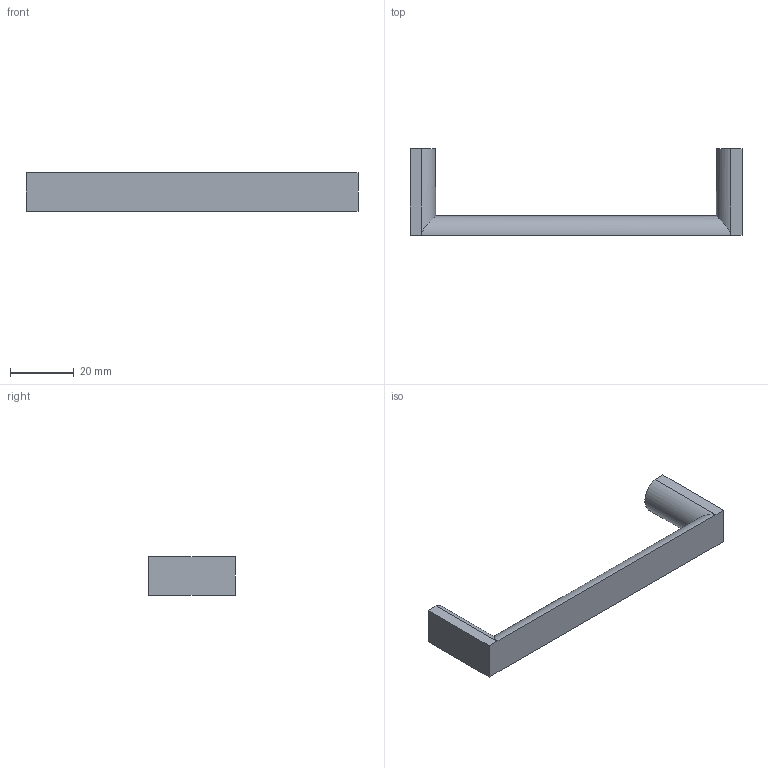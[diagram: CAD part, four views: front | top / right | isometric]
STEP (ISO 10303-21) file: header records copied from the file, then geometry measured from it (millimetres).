
FILE_DESCRIPTION( ( '' ), '1' );
FILE_NAME( 'C:/Documents and Settings/Sachin/Desktop/Sheet 10_1/stp/9995482.stp', '2013-10-22T08:41:15', ( '' ), ( '' ), ' ', ' ', ' ' );
FILE_SCHEMA( ( 'CONFIG_CONTROL_DESIGN' ) );
Length unit declared in the file: millimetre
Products named in the file (1): 1
Bounding box: 104 x 27 x 12 mm (x, y, z)
Volume: 9186.6 mm3; surface area: 5202.5 mm2
Topology: 1 solids, 1 shells, 18 faces, 38 edges, 24 vertices
Faces by surface type: plane 11, cylinder 7
Entity records: 602 total; most frequent: CARTESIAN_POINT 163, DIRECTION 84, ORIENTED_EDGE 76, EDGE_CURVE 38, AXIS2_PLACEMENT_3D 29, LINE 26, VECTOR 26, VERTEX_POINT 24
